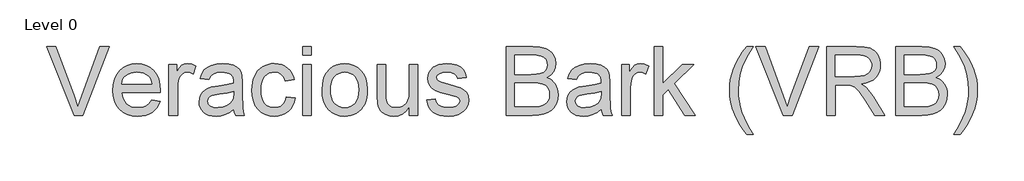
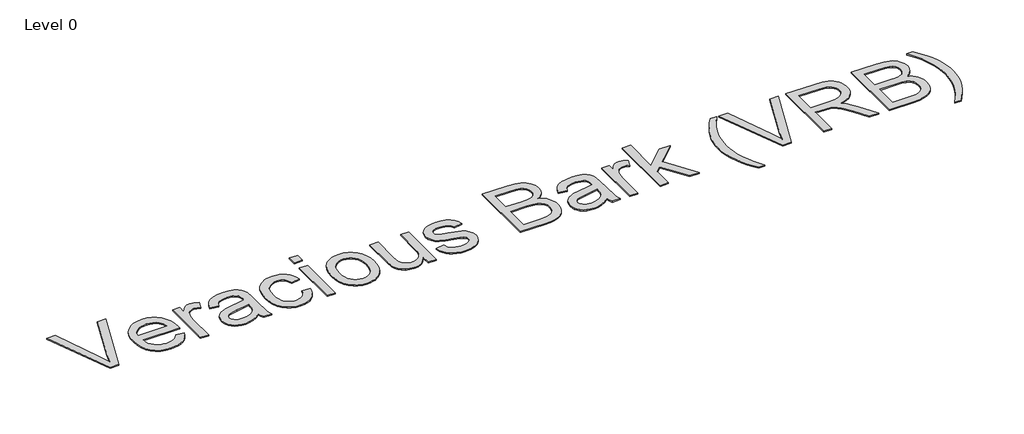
# One storey, part 6 of 43: 1 proxy.
"""IFC4 building model written with IfcOpenShell, lengths in millimetres."""

from ifc_helpers import new_model, si_unit, origin, origin_with_axes, place, context, project, spatial, polyline, outline, extrude, element, save

model = new_model("IFC4")

# Units and contexts
model_context = context("Model", 3, world=origin())
ifc_project = project(units=[si_unit("LENGTHUNIT", "METRE", prefix="MILLI")], contexts=[model_context])

# Site, building, storey
site = spatial("IfcSite", under=ifc_project)
building = spatial("IfcBuilding", under=site)
storey = spatial("IfcBuildingStorey", under=building, Name="Level 0", Elevation=0.0)

# Proxy
placement = place(None, origin())
element("IfcBuildingElementProxy", 1, Name="600mm Arial", ObjectType="600mm Arial", at=placement, inside=storey, context=model_context, shape_type="SweptSolid", body=[
    extrude(outline(polyline([(-10699.4082996, -32269.0419285), (-10939.2673604, -31666.3040676), (-10858.6276271, -31666.3040676), (-10698.0839244, -32100.5519747), (-10665.563156, -32198.4085854), (-10633.483846, -32100.5519747), (-10472.498685, -31666.3040676), (-10391.8589516, -31666.3040676), (-10621.5644694, -32269.0419285), (-10699.4082996, -32269.0419285)])), origin_with_axes(), (0.0, 0.0, 1.0), 10.0),
    extrude(outline(polyline([(-10021.3282061, -32137.1930214), (-9947.4575014, -32146.6108005), (-9958.7836684, -32176.1977099), (-9974.0737638, -32202.2713463), (-9993.3277877, -32224.8317097), (-10016.5457401, -32243.8788), (-10043.4884978, -32259.007947), (-10073.9169373, -32269.8144807), (-10107.8310587, -32276.2984008), (-10145.230862, -32278.4597075), (-10191.9794666, -32274.7303038), (-10233.6329055, -32263.5420926), (-10270.1911788, -32244.895074), (-10301.6542864, -32218.7892479), (-10326.9553706, -32185.9511813), (-10345.0275736, -32147.1074412), (-10355.8708954, -32102.2580274), (-10359.485336, -32051.4029401), (-10355.8341072, -31998.823406), (-10344.8804208, -31952.4794716), (-10326.6242768, -31912.3711371), (-10301.0656752, -31878.4984024), (-10269.685341, -31851.5878344), (-10233.9639993, -31832.3660002), (-10193.90165, -31820.8328996), (-10149.4982932, -31816.9885328), (-10106.5250776, -31820.8237026), (-10067.6629434, -31832.329212), (-10032.9118904, -31851.505061), (-10002.2719187, -31878.3512496), (-9977.2605416, -31912.1504079), (-9959.3952722, -31952.185166), (-9948.6761105, -31998.455524), (-9945.1030567, -32050.9614817), (-9945.5445151, -32071.2685679), (-10284.1431034, -32071.2685679), (-10279.7791033, -32101.3337239), (-10271.1016867, -32127.6648777), (-10258.1108537, -32150.2620293), (-10240.8066044, -32169.1251786), (-10220.1454318, -32183.9968082), (-10197.0838293, -32194.6194008), (-10171.6217967, -32200.9929564), (-10143.7593341, -32203.1174749), (-10103.6601966, -32199.1811376), (-10069.8886294, -32187.3721255), (-10042.4446326, -32166.9546748), (-10021.3282061, -32137.1930214)]), holes=[polyline([(-10284.1431034, -31995.9263352), (-10020.4452893, -31995.9263352), (-10030.6356205, -31956.1215034), (-10039.4004091, -31940.4681245), (-10050.6116129, -31927.6474369), (-10071.1578223, -31912.1963931), (-10094.5367231, -31901.1599333), (-10120.7483153, -31894.5380574), (-10149.7925988, -31892.3307654), (-10176.284701, -31894.0920005), (-10200.5787082, -31899.3757056), (-10222.6746206, -31908.1818809), (-10242.572438, -31920.5105262), (-10259.269682, -31935.7914246), (-10271.7638743, -31953.4543589), (-10280.0550147, -31973.4993291), (-10284.1431034, -31995.9263352)])]), origin_with_axes(), (0.0, 0.0, 1.0), 10.0),
    extrude(outline(polyline([(-9869.7608241, -32269.0419285), (-9869.7608241, -31826.4063119), (-9803.8363705, -31826.4063119), (-9803.8363705, -31891.889307), (-9779.4825824, -31853.9238851), (-9757.0417807, -31831.5566598), (-9734.5274026, -31820.6305645), (-9709.9528853, -31816.9885328), (-9672.4289218, -31822.8010683), (-9634.3163471, -31840.2386749), (-9659.4794756, -31907.7818092), (-9685.9669793, -31896.1935264), (-9712.4544829, -31892.3307654), (-9734.9504669, -31896.0463736), (-9755.055218, -31907.193198), (-9771.297208, -31924.9251102), (-9782.2049092, -31948.3959815), (-9791.3651709, -31990.4816817), (-9794.4185914, -32036.3933547), (-9794.4185914, -32269.0419285), (-9869.7608241, -32269.0419285)])), origin_with_axes(), (0.0, 0.0, 1.0), 10.0),
    extrude(outline(polyline([(-9304.6940795, -32212.535254), (-9340.6913327, -32243.4005534), (-9377.7554437, -32263.5972749), (-9416.7325411, -32274.7440994), (-9458.4687534, -32278.4597075), (-9492.0149929, -32276.2248244), (-9521.4317569, -32269.5201751), (-9546.7190456, -32258.3457595), (-9567.8768588, -32242.7015776), (-9584.5832999, -32223.5809109), (-9596.5164721, -32201.9770407), (-9603.6763755, -32177.8899671), (-9606.0630099, -32151.31969), (-9602.4577664, -32120.0865086), (-9591.6420357, -32091.7228068), (-9574.9585872, -32067.4425951), (-9553.7501902, -32048.4598842), (-9528.826185, -32034.1124863), (-9500.9959121, -32023.7382141), (-9435.8072225, -32012.4074486), (-9358.7727328, -32000.488072), (-9305.1355379, -31986.5085562), (-9304.6940795, -31969.7331372), (-9309.8812156, -31936.1087228), (-9316.3651358, -31923.6559173), (-9325.442624, -31914.1093795), (-9341.1327911, -31904.5812358), (-9360.2442607, -31897.7754189), (-9408.7311077, -31892.3307654), (-9453.6127111, -31895.9544031), (-9484.9562571, -31906.825316), (-9506.330201, -31926.9300671), (-9521.3029982, -31958.2552189), (-9596.6452308, -31948.8374399), (-9583.5670259, -31907.6346564), (-9564.0508861, -31875.2610408), (-9536.2757954, -31850.5025826), (-9498.4207381, -31832.145271), (-9452.122789, -31820.7777173), (-9399.019023, -31816.9885328), (-9348.0857608, -31820.336259), (-9307.7107118, -31830.3794374), (-9277.2684767, -31845.4809933), (-9256.1336561, -31864.0038518), (-9242.1173521, -31886.904506), (-9233.0306668, -31915.1394491), (-9229.3518468, -31981.0639026), (-9229.3518468, -32074.800235), (-9225.5258741, -32205.6926489), (-9219.8604914, -32238.0478704), (-9210.5162887, -32269.0419285), (-9285.8585213, -32269.0419285), (-9297.9250507, -32242.8487304), (-9304.6940795, -32212.535254)]), holes=[polyline([(-9304.6940795, -32061.8507888), (-9355.314642, -32074.3955648), (-9426.2422907, -32084.9537781), (-9491.0630982, -32097.1674603), (-9507.9304877, -32105.5183816), (-9520.4200814, -32117.0330881), (-9528.1456033, -32130.8286629), (-9530.7207773, -32146.0221893), (-9525.1105769, -32168.4262028), (-9508.2799756, -32186.7835143), (-9480.5968555, -32199.0339848), (-9442.4290985, -32203.1174749), (-9401.962079, -32198.6109205), (-9366.2039491, -32185.0912572), (-9337.2148478, -32165.1704471), (-9317.0549145, -32141.4604525), (-9308.115382, -32117.0330881), (-9305.1355379, -32083.1879445), (-9304.6940795, -32061.8507888)])]), origin_with_axes(), (0.0, 0.0, 1.0), 10.0),
    extrude(outline(polyline([(-8843.2229047, -32108.9396842), (-8767.8806721, -32118.3574632), (-8776.0752435, -32153.9086596), (-8788.886734, -32185.3671687), (-8806.3151435, -32212.7329906), (-8828.3604721, -32236.0061253), (-8854.0938177, -32254.5795675), (-8882.5862782, -32267.846312), (-8913.8378537, -32275.8063587), (-8947.8485441, -32278.4597075), (-8990.1043898, -32274.757895), (-9027.9916368, -32263.6524572), (-9061.5102851, -32245.1433944), (-9090.6603347, -32219.2307063), (-9114.2553661, -32186.4018368), (-9131.10896, -32147.1442294), (-9141.2211164, -32101.4578841), (-9144.5918352, -32049.3428009), (-9138.8344819, -31982.2963073), (-9131.6377904, -31952.1253852), (-9121.5624223, -31924.1893462), (-9108.5393996, -31899.0492103), (-9092.4997446, -31877.2659977), (-9073.4434573, -31858.8397083), (-9051.3705376, -31843.770342), (-9027.2788654, -31832.0533005), (-9002.1663207, -31823.6839851), (-8976.0329035, -31818.6623959), (-8948.8786137, -31816.9885328), (-8915.4519359, -31819.2877953), (-8885.2166345, -31826.1855827), (-8858.1727093, -31837.681895), (-8834.3201604, -31853.7767323), (-8814.0636581, -31874.1022125), (-8797.8078724, -31898.2904537), (-8785.5528034, -31926.3414559), (-8777.2984512, -31958.2552189), (-8852.6406838, -31967.672998), (-8866.3074999, -31934.8027418), (-8887.5894733, -31911.2399), (-8915.3093817, -31897.058049), (-8948.2900025, -31892.3307654), (-8973.8899909, -31894.657619), (-8996.9791846, -31901.6381799), (-9017.5575837, -31913.272448), (-9035.6251882, -31929.5604233), (-9050.3358695, -31950.8791849), (-9060.843499, -31977.6058119), (-9067.1480767, -32009.7403042), (-9069.2496025, -32047.2826618), (-9067.1940619, -32085.390638), (-9061.02744, -32117.8976107), (-9050.7497367, -32144.8035802), (-9036.3609522, -32166.1085462), (-9018.6520326, -32182.2999525), (-8998.4139244, -32193.8652428), (-8975.6466274, -32200.8044169), (-8950.3501417, -32203.1174749), (-8911.3362561, -32197.3417276), (-8894.4642681, -32190.1220435), (-8879.3489166, -32180.0144856), (-8866.413266, -32166.9086896), (-8856.0803804, -32150.6942906), (-8848.35026, -32131.3712888), (-8843.2229047, -32108.9396842)])), origin_with_axes(), (0.0, 0.0, 1.0), 10.0),
    extrude(outline(polyline([(-8701.9562186, -31741.6463002), (-8701.9562186, -31666.3040676), (-8626.613986, -31666.3040676), (-8626.613986, -31741.6463002), (-8701.9562186, -31741.6463002)])), origin_with_axes(), (0.0, 0.0, 1.0), 10.0),
    extrude(outline(polyline([(-8701.9562186, -32269.0419285), (-8701.9562186, -31826.4063119), (-8626.613986, -31826.4063119), (-8626.613986, -32269.0419285), (-8701.9562186, -32269.0419285)])), origin_with_axes(), (0.0, 0.0, 1.0), 10.0),
    extrude(outline(polyline([(-8532.4361952, -32047.7241202), (-8528.3619021, -31990.3989083), (-8516.1390228, -31941.0015534), (-8495.7675573, -31899.5320555), (-8467.2475056, -31865.9904146), (-8438.5343159, -31844.5520913), (-8406.841282, -31829.2390032), (-8372.168404, -31820.0511504), (-8334.5156818, -31816.9885328), (-8292.9496149, -31820.7179365), (-8255.3658705, -31831.9061477), (-8221.7644488, -31850.5531663), (-8192.1453496, -31876.6589924), (-8167.970904, -31909.3407092), (-8150.7034429, -31947.7153998), (-8140.3429662, -31991.7830643), (-8136.889474, -32041.5437027), (-8138.4161843, -32081.8727664), (-8142.9963151, -32117.6584875), (-8150.6298665, -32148.9008659), (-8161.3168385, -32175.5999017), (-8174.9238737, -32198.6615043), (-8191.3176152, -32218.991583), (-8210.4980627, -32236.590138), (-8232.4652163, -32251.4571691), (-8256.3637504, -32263.2707797), (-8281.3383394, -32271.7090729), (-8307.3889832, -32276.7720489), (-8334.5156818, -32278.4597075), (-8376.688754, -32274.7440994), (-8414.6219862, -32263.5972749), (-8448.3153785, -32245.0192342), (-8477.7689307, -32219.0099771), (-8501.6858589, -32186.0109622), (-8518.7693791, -32146.4636477), (-8529.0194912, -32100.3680337), (-8532.4361952, -32047.7241202)]), holes=[polyline([(-8457.0939626, -32047.5769674), (-8454.9142618, -32084.1214451), (-8448.3751593, -32115.7638952), (-8437.4766552, -32142.5043177), (-8422.2187494, -32164.3427126), (-8403.6591028, -32181.3066711), (-8382.8553759, -32193.4237844), (-8359.8075689, -32200.6940523), (-8334.5156818, -32203.1174749), (-8309.3525533, -32200.6802567), (-8286.3967168, -32193.3686021), (-8265.6481723, -32181.182511), (-8247.1069197, -32164.1219834), (-8231.849014, -32142.0674578), (-8220.9505099, -32114.8993725), (-8214.4114074, -32082.6177274), (-8212.2317066, -32045.2225226), (-8214.425203, -32009.8368732), (-8221.0056922, -31979.0221576), (-8231.9731742, -31952.7783757), (-8247.3276489, -31931.1055277), (-8265.9378794, -31914.1415692), (-8286.6726283, -31902.024456), (-8309.5318958, -31894.7541881), (-8334.5156818, -31892.3307654), (-8359.8075689, -31894.744991), (-8382.8553759, -31901.9876678), (-8403.6591028, -31914.0587957), (-8422.2187494, -31930.9583749), (-8437.4766552, -31952.7323905), (-8448.3751593, -31979.4268278), (-8454.9142618, -32011.0416867), (-8457.0939626, -32047.5769674)])]), origin_with_axes(), (0.0, 0.0, 1.0), 10.0),
    extrude(outline(polyline([(-7769.59609, -32269.0419285), (-7769.59609, -32192.9639319), (-7796.8561458, -32230.3683337), (-7828.604362, -32257.0857636), (-7864.8407385, -32273.1162216), (-7905.5652754, -32278.4597075), (-7942.2615044, -32274.7073112), (-7976.4193477, -32263.4501221), (-8005.0773551, -32246.5275504), (-8025.2740766, -32225.7790058), (-8038.8673164, -32200.5790892), (-8047.7148783, -32170.302401), (-8052.1294623, -32100.2576691), (-8052.1294623, -31826.4063119), (-7976.7872297, -31826.4063119), (-7976.7872297, -32064.7938447), (-7975.6467955, -32112.4713513), (-7972.2254929, -32141.6076053), (-7961.2442154, -32167.2305863), (-7942.4270513, -32186.7099379), (-7917.0247996, -32199.0155907), (-7886.2882589, -32203.1174749), (-7853.7858846, -32198.9236202), (-7823.3804377, -32186.342056), (-7798.3092797, -32166.5316105), (-7781.8097722, -32140.6511122), (-7772.6495105, -32105.2056819), (-7769.59609, -32056.7004409), (-7769.59609, -31826.4063119), (-7694.2538574, -31826.4063119), (-7694.2538574, -32269.0419285), (-7769.59609, -32269.0419285)])), origin_with_axes(), (0.0, 0.0, 1.0), 10.0),
    extrude(outline(polyline([(-7618.9116248, -32137.1930214), (-7543.5693922, -32127.7752423), (-7539.0168525, -32144.9553315), (-7531.6868037, -32160.0017051), (-7521.5792459, -32172.9143631), (-7508.694179, -32183.6933056), (-7492.9948149, -32192.1913797), (-7474.4443653, -32198.2614326), (-7428.7902097, -32203.1174749), (-7383.687877, -32198.6661028), (-7366.1583, -32193.1018876), (-7351.9764491, -32185.3119864), (-7333.2144673, -32165.9613934), (-7328.5239719, -32155.1272687), (-7326.9604734, -32143.5205917), (-7328.5331689, -32133.3486545), (-7333.2512555, -32124.3171516), (-7352.1236019, -32109.6754482), (-7380.3401509, -32100.1105163), (-7429.6731264, -32088.1911396), (-7498.4302713, -32068.3071178), (-7543.1279338, -32051.3293637), (-7571.8411235, -32032.8065053), (-7592.6448503, -32008.2871703), (-7605.2815968, -31979.3348573), (-7609.4938457, -31947.5130647), (-7606.1093313, -31918.3216284), (-7595.9557883, -31891.3742722), (-7579.9529215, -31867.737854), (-7559.0204359, -31848.4792316), (-7538.2167091, -31836.3575198), (-7511.1222002, -31826.1855827), (-7479.7970483, -31819.2877953), (-7446.3013926, -31816.9885328), (-7397.2627227, -31820.6857468), (-7354.6251994, -31831.777389), (-7320.3385975, -31849.1782074), (-7296.3526914, -31871.8029501), (-7280.4601892, -31901.3254802), (-7270.4537989, -31939.4196608), (-7345.7960315, -31948.8374399), (-7355.3057811, -31925.1274453), (-7374.1229452, -31907.2667744), (-7402.4314647, -31896.0647677), (-7440.4152807, -31892.3307654), (-7483.6782033, -31895.8992208), (-7512.5201518, -31906.6045868), (-7528.7437477, -31922.0556306), (-7534.1516131, -31939.8611192), (-7531.9075329, -31951.449402), (-7525.1752924, -31961.7868861), (-7513.6605859, -31971.0207242), (-7497.069108, -31978.4151523), (-7432.174724, -31994.4548073), (-7321.5893963, -32029.9186316), (-7292.3795658, -32046.8779916), (-7270.2330697, -32070.0913455), (-7256.271948, -32099.6322697), (-7251.6182408, -32135.5743406), (-7257.0812884, -32172.7304221), (-7273.4704313, -32207.6792117), (-7300.16027, -32237.6799884), (-7336.5254053, -32259.9920314), (-7380.4505155, -32273.8427885), (-7429.8202792, -32278.4597075), (-7470.3700722, -32276.2340215), (-7505.7879112, -32269.5569633), (-7536.0737965, -32258.4285329), (-7561.2277279, -32242.8487304), (-7581.7739374, -32222.8911322), (-7598.2366566, -32198.6293146), (-7610.6158858, -32170.0632777), (-7618.9116248, -32137.1930214)])), origin_with_axes(), (0.0, 0.0, 1.0), 10.0),
    extrude(outline(polyline([(-6921.9959731, -32269.0419285), (-6921.9959731, -31666.3040676), (-6691.9961497, -31666.3040676), (-6628.7388406, -31670.7370456), (-6579.3506828, -31684.0359797), (-6559.2735229, -31694.0929538), (-6541.4956255, -31706.5319637), (-6526.0169905, -31721.3530096), (-6512.8376181, -31738.5560914), (-6494.7930062, -31776.2272077), (-6488.7781356, -31815.6641576), (-6493.836513, -31851.9557164), (-6509.0116453, -31886.0767715), (-6534.4138971, -31915.9303954), (-6570.1536329, -31939.4196608), (-6547.4139271, -31949.1133514), (-6527.4609274, -31961.7133097), (-6510.2946338, -31977.2195358), (-6495.9150463, -31995.6320297), (-6484.5520912, -32016.3897712), (-6476.4356946, -32038.9317405), (-6471.5658567, -32063.2579374), (-6469.9425774, -32089.368362), (-6474.3755555, -32131.39888), (-6487.6744896, -32170.3759774), (-6507.5217232, -32203.5221451), (-6531.5995998, -32228.0598742), (-6561.0853417, -32245.8285746), (-6597.1561714, -32258.6676562), (-6640.9893111, -32266.4483604), (-6693.7619833, -32269.0419285), (-6921.9959731, -32269.0419285)]), holes=[polyline([(-6846.6537405, -31911.1663236), (-6709.0658743, -31911.1663236), (-6660.9469093, -31909.5476428), (-6628.7204465, -31904.6916004), (-6600.595868, -31893.5263819), (-6580.3807524, -31876.8061452), (-6568.1854642, -31854.7884078), (-6564.1203682, -31827.7306871), (-6567.9095527, -31801.4639126), (-6579.2771064, -31778.5816525), (-6597.7079944, -31760.7209816), (-6622.6871818, -31749.5189749), (-6661.0204857, -31743.6144689), (-6719.513723, -31741.6463002), (-6846.6537405, -31741.6463002), (-6846.6537405, -31911.1663236)]), polyline([(-6846.6537405, -32193.6996959), (-6692.1433025, -32193.6996959), (-6636.2252392, -32190.7566399), (-6610.2711645, -32184.2267345), (-6588.9156147, -32174.3491029), (-6571.5515845, -32160.2040402), (-6557.5720687, -32140.8718413), (-6548.3566247, -32117.2170291), (-6545.28481, -32090.104126), (-6548.8900536, -32058.6134272), (-6559.7057843, -32031.5373124), (-6578.5965247, -32010.3657036), (-6606.4267976, -31996.5885228), (-6645.8453534, -31989.0285478), (-6699.5009424, -31986.5085562), (-6846.6537405, -31986.5085562), (-6846.6537405, -32193.6996959)])]), origin_with_axes(), (0.0, 0.0, 1.0), 10.0),
    extrude(outline(polyline([(-6093.2314144, -32212.535254), (-6129.2286676, -32243.4005534), (-6166.2927786, -32263.5972749), (-6205.269876, -32274.7440994), (-6247.0060883, -32278.4597075), (-6280.5523278, -32276.2248244), (-6309.9690918, -32269.5201751), (-6335.2563805, -32258.3457595), (-6356.4141937, -32242.7015776), (-6373.1206348, -32223.5809109), (-6385.053807, -32201.9770407), (-6392.2137104, -32177.8899671), (-6394.6003448, -32151.31969), (-6390.9951013, -32120.0865086), (-6380.1793706, -32091.7228068), (-6363.4959221, -32067.4425951), (-6342.2875251, -32048.4598842), (-6317.3635199, -32034.1124863), (-6289.533247, -32023.7382141), (-6224.3445574, -32012.4074486), (-6147.3100677, -32000.488072), (-6093.6728728, -31986.5085562), (-6093.2314144, -31969.7331372), (-6098.4185505, -31936.1087228), (-6104.9024707, -31923.6559173), (-6113.9799589, -31914.1093795), (-6129.670126, -31904.5812358), (-6148.7815956, -31897.7754189), (-6197.2684426, -31892.3307654), (-6242.150046, -31895.9544031), (-6273.493592, -31906.825316), (-6294.8675359, -31926.9300671), (-6309.8403331, -31958.2552189), (-6385.1825657, -31948.8374399), (-6372.1043608, -31907.6346564), (-6352.588221, -31875.2610408), (-6324.8131303, -31850.5025826), (-6286.958073, -31832.145271), (-6240.6601239, -31820.7777173), (-6187.5563579, -31816.9885328), (-6136.6230957, -31820.336259), (-6096.2480467, -31830.3794374), (-6065.8058116, -31845.4809933), (-6044.670991, -31864.0038518), (-6030.654687, -31886.904506), (-6021.5680017, -31915.1394491), (-6017.8891818, -31981.0639026), (-6017.8891818, -32074.800235), (-6014.063209, -32205.6926489), (-6008.3978263, -32238.0478704), (-5999.0536236, -32269.0419285), (-6074.3958562, -32269.0419285), (-6086.4623857, -32242.8487304), (-6093.2314144, -32212.535254)]), holes=[polyline([(-6093.2314144, -32061.8507888), (-6143.8519769, -32074.3955648), (-6214.7796256, -32084.9537781), (-6279.6004331, -32097.1674603), (-6296.4678226, -32105.5183816), (-6308.9574163, -32117.0330881), (-6316.6829382, -32130.8286629), (-6319.2581122, -32146.0221893), (-6313.6479118, -32168.4262028), (-6296.8173105, -32186.7835143), (-6269.1341904, -32199.0339848), (-6230.9664334, -32203.1174749), (-6190.4994139, -32198.6109205), (-6154.741284, -32185.0912572), (-6125.7521827, -32165.1704471), (-6105.5922494, -32141.4604525), (-6096.6527169, -32117.0330881), (-6093.6728728, -32083.1879445), (-6093.2314144, -32061.8507888)])]), origin_with_axes(), (0.0, 0.0, 1.0), 10.0),
    extrude(outline(polyline([(-5914.2936119, -32269.0419285), (-5914.2936119, -31826.4063119), (-5848.3691584, -31826.4063119), (-5848.3691584, -31891.889307), (-5824.0153703, -31853.9238851), (-5801.5745686, -31831.5566598), (-5779.0601905, -31820.6305645), (-5754.4856732, -31816.9885328), (-5716.9617097, -31822.8010683), (-5678.849135, -31840.2386749), (-5704.0122635, -31907.7818092), (-5730.4997671, -31896.1935264), (-5756.9872708, -31892.3307654), (-5779.4832548, -31896.0463736), (-5799.5880058, -31907.193198), (-5815.8299959, -31924.9251102), (-5826.7376971, -31948.3959815), (-5835.8979587, -31990.4816817), (-5838.9513793, -32036.3933547), (-5838.9513793, -32269.0419285), (-5914.2936119, -32269.0419285)])), origin_with_axes(), (0.0, 0.0, 1.0), 10.0),
    extrude(outline(polyline([(-5631.7602396, -32269.0419285), (-5631.7602396, -31666.3040676), (-5556.418007, -31666.3040676), (-5556.418007, -31990.1873761), (-5387.4865948, -31826.4063119), (-5283.3024138, -31826.4063119), (-5454.2939651, -31992.2475153), (-5273.8846347, -32269.0419285), (-5361.882008, -32269.0419285), (-5508.299042, -32044.6339114), (-5556.418007, -32091.2813484), (-5556.418007, -32269.0419285), (-5631.7602396, -32269.0419285)])), origin_with_axes(), (0.0, 0.0, 1.0), 10.0),
    extrude(outline(polyline([(-4821.831239, -32438.5619518), (-4852.245883, -32399.2077754), (-4880.2141117, -32356.6346315), (-4905.7359251, -32310.8425202), (-4928.8113232, -32261.8314414), (-4947.9319899, -32210.7510263), (-4961.589609, -32158.7509063), (-4969.7841804, -32105.8310813), (-4972.5157043, -32051.9915513), (-4970.4739592, -32004.6727297), (-4964.348724, -31958.3655835), (-4954.1399986, -31913.0701129), (-4939.8477831, -31868.7863177), (-4918.1243513, -31818.0002083), (-4891.2137833, -31767.3244634), (-4859.1160792, -31716.7590832), (-4821.831239, -31666.3040676), (-4765.3245646, -31666.3040676), (-4809.654345, -31737.930692), (-4835.8107549, -31785.6449868), (-4859.8702373, -31842.2988141), (-4878.1907607, -31901.3070861), (-4892.4277939, -31976.6861069), (-4897.1734716, -32052.4330097), (-4895.1133325, -32100.7313171), (-4888.932915, -32149.0204275), (-4878.6322191, -32197.3003409), (-4864.2112449, -32245.5710572), (-4845.6699923, -32293.8325764), (-4823.0084614, -32342.0848986), (-4796.2266522, -32390.3280238), (-4765.3245646, -32438.5619518), (-4821.831239, -32438.5619518)])), origin_with_axes(), (0.0, 0.0, 1.0), 10.0),
    extrude(outline(polyline([(-4502.5096672, -32269.0419285), (-4742.3687281, -31666.3040676), (-4661.7289947, -31666.3040676), (-4501.185292, -32100.5519747), (-4468.6645237, -32198.4085854), (-4436.5852137, -32100.5519747), (-4275.6000526, -31666.3040676), (-4194.9603193, -31666.3040676), (-4424.665837, -32269.0419285), (-4502.5096672, -32269.0419285)])), origin_with_axes(), (0.0, 0.0, 1.0), 10.0),
    extrude(outline(polyline([(-4124.9155874, -32269.0419285), (-4124.9155874, -31666.3040676), (-3865.1908988, -31666.3040676), (-3795.3852902, -31670.3691636), (-3744.5991808, -31682.5644518), (-3725.0002675, -31692.2581423), (-3707.4798874, -31705.0788299), (-3692.0380407, -31721.0265144), (-3678.6747272, -31740.1011958), (-3667.8911862, -31761.2774032), (-3660.188657, -31783.5296653), (-3655.5671394, -31806.8579824), (-3654.0266335, -31831.2623542), (-3656.5788149, -31862.2196241), (-3664.2353589, -31890.6385082), (-3676.9962656, -31916.5190066), (-3694.861535, -31939.8611192), (-3718.0610933, -31959.919885), (-3746.8248668, -31975.9503429), (-3781.1528555, -31987.952493), (-3821.0450594, -31995.9263352), (-3796.2130247, -32012.1499312), (-3778.2235951, -32028.152798), (-3747.3582957, -32064.7570565), (-3717.1551839, -32105.7023226), (-3616.6498228, -32269.0419285), (-3704.2057377, -32269.0419285), (-3782.6381791, -32144.1092029), (-3839.2920063, -32061.4093304), (-3860.3532505, -32037.2946656), (-3879.0968382, -32022.3402625), (-3914.9285445, -32007.9928647), (-3958.6329256, -32005.3441143), (-4049.5733548, -32005.3441143), (-4049.5733548, -32269.0419285), (-4124.9155874, -32269.0419285)]), holes=[polyline([(-4049.5733548, -31930.0018817), (-3880.9362482, -31930.0018817), (-3832.5045835, -31927.3347372), (-3794.9254377, -31919.3333039), (-3766.6353123, -31905.4641526), (-3746.0707087, -31885.1938547), (-3733.5443268, -31860.6745197), (-3729.3688662, -31834.0582574), (-3731.3600275, -31814.7904379), (-3737.3335114, -31797.3068461), (-3747.2893178, -31781.6074819), (-3761.2274469, -31767.6923454), (-3779.4697954, -31756.2972006), (-3802.3382599, -31748.1578115), (-3829.8328405, -31743.274178), (-3861.9535372, -31741.6463002), (-4049.5733548, -31741.6463002), (-4049.5733548, -31930.0018817)])]), origin_with_axes(), (0.0, 0.0, 1.0), 10.0),
    extrude(outline(polyline([(-3522.1777265, -32269.0419285), (-3522.1777265, -31666.3040676), (-3292.1779031, -31666.3040676), (-3228.920594, -31670.7370456), (-3179.5324362, -31684.0359797), (-3159.4552763, -31694.0929538), (-3141.6773789, -31706.5319637), (-3126.1987439, -31721.3530096), (-3113.0193714, -31738.5560914), (-3094.9747596, -31776.2272077), (-3088.959889, -31815.6641576), (-3094.0182664, -31851.9557164), (-3109.1933987, -31886.0767715), (-3134.5956505, -31915.9303954), (-3170.3353863, -31939.4196608), (-3147.5956805, -31949.1133514), (-3127.6426807, -31961.7133097), (-3110.4763871, -31977.2195358), (-3096.0967997, -31995.6320297), (-3084.7338445, -32016.3897712), (-3076.617448, -32038.9317405), (-3071.7476101, -32063.2579374), (-3070.1243308, -32089.368362), (-3074.5573088, -32131.39888), (-3087.856243, -32170.3759774), (-3107.7034766, -32203.5221451), (-3131.7813532, -32228.0598742), (-3161.2670951, -32245.8285746), (-3197.3379247, -32258.6676562), (-3241.1710645, -32266.4483604), (-3293.9437367, -32269.0419285), (-3522.1777265, -32269.0419285)]), holes=[polyline([(-3446.8354939, -31911.1663236), (-3309.2476277, -31911.1663236), (-3261.1286627, -31909.5476428), (-3228.9021999, -31904.6916004), (-3200.7776214, -31893.5263819), (-3180.5625058, -31876.8061452), (-3168.3672176, -31854.7884078), (-3164.3021216, -31827.7306871), (-3168.0913061, -31801.4639126), (-3179.4588598, -31778.5816525), (-3197.8897477, -31760.7209816), (-3222.8689352, -31749.5189749), (-3261.2022391, -31743.6144689), (-3319.6954763, -31741.6463002), (-3446.8354939, -31741.6463002), (-3446.8354939, -31911.1663236)]), polyline([(-3446.8354939, -32193.6996959), (-3292.3250559, -32193.6996959), (-3236.4069926, -32190.7566399), (-3210.4529179, -32184.2267345), (-3189.097368, -32174.3491029), (-3171.7333379, -32160.2040402), (-3157.7538221, -32140.8718413), (-3148.5383781, -32117.2170291), (-3145.4665634, -32090.104126), (-3149.071807, -32058.6134272), (-3159.8875376, -32031.5373124), (-3178.7782781, -32010.3657036), (-3206.608551, -31996.5885228), (-3246.0271068, -31989.0285478), (-3299.6826958, -31986.5085562), (-3446.8354939, -31986.5085562), (-3446.8354939, -32193.6996959)])]), origin_with_axes(), (0.0, 0.0, 1.0), 10.0),
    extrude(outline(polyline([(-2957.1109819, -32438.5619518), (-3013.6176563, -32438.5619518), (-2982.7155687, -32390.3280238), (-2955.9337595, -32342.0848986), (-2933.2722286, -32293.8325764), (-2914.730976, -32245.5710572), (-2900.3100018, -32197.3003409), (-2890.009306, -32149.0204275), (-2883.8288884, -32100.7313171), (-2881.7687493, -32052.4330097), (-2886.514427, -31977.2379299), (-2900.7514602, -31902.6314613), (-2918.7408898, -31843.5128246), (-2942.6900077, -31786.8222092), (-2968.9567821, -31738.5928796), (-3013.6176563, -31666.3040676), (-2957.1109819, -31666.3040676), (-2919.8261417, -31716.7590832), (-2887.7284376, -31767.3244634), (-2860.8178696, -31818.0002083), (-2839.0944378, -31868.7863177), (-2824.8022223, -31913.0701129), (-2814.593497, -31958.3655835), (-2808.4682617, -32004.6727297), (-2806.4265167, -32051.9915513), (-2809.171836, -32105.8310813), (-2817.4077942, -32158.7509063), (-2831.1343912, -32210.7510263), (-2850.3516269, -32261.8314414), (-2873.4960029, -32310.8425202), (-2899.0040207, -32356.6346315), (-2926.8756804, -32399.2077754), (-2957.1109819, -32438.5619518)])), origin_with_axes(), (0.0, 0.0, 1.0), 10.0),
])

save(model, "model.ifc")
